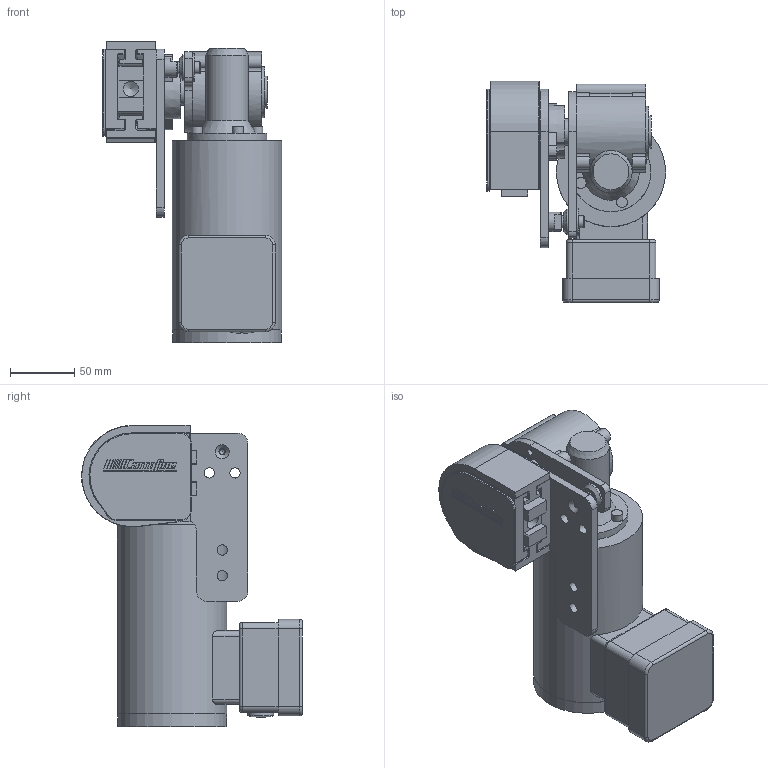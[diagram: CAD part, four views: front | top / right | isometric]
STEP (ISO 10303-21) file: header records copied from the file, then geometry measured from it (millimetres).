
FILE_DESCRIPTION((''),'2;1');
FILE_NAME('E:\Vault\Projekt\S380\3D S380\Serie 380\380-310H.stp','2010-11-30T15:05:30',('Per'),(''),'Autodesk Inventor 2011','Autodesk Inventor 2011','');
FILE_SCHEMA(('AUTOMOTIVE_DESIGN { 1 0 10303 214 1 1 1 1 }'));
Length unit declared in the file: millimetre
Products named in the file (1): 380-310H
Bounding box: 139.5 x 171.98 x 234.5 mm (x, y, z)
Volume: 1584677.1 mm3; surface area: 212014.5 mm2
Topology: 1 solids, 5 shells, 817 faces, 1940 edges, 1168 vertices
Faces by surface type: plane 332, cylinder 303, torus 119, sphere 33, bspline 16, cone 14
Full cylindrical faces by diameter (mm): 3.242 x2, 4 x8, 4.134 x9, 4.917 x2, 5.2 x4, 6.647 x2, 7 x6, 7.5 x4, 8 x4, 8.5 x3, 9.4 x1, 9.6 x1, 12 x1, 14.376 x2, 15 x2, 20 x2, 20.5 x1, 21.5 x1, 22 x2, 25 x3, 27 x1, 32 x2, 33 x1, 33.7 x1, 34 x2, 35 x1, 40 x2, 40.2 x1, 56 x1, 84.8 x1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
Entity records: 30160 total; most frequent: CARTESIAN_POINT 10810, DIRECTION 4080, ORIENTED_EDGE 3516, EDGE_CURVE 1758, AXIS2_PLACEMENT_3D 1594, VERTEX_POINT 1140, EDGE_LOOP 1040, VECTOR 892
